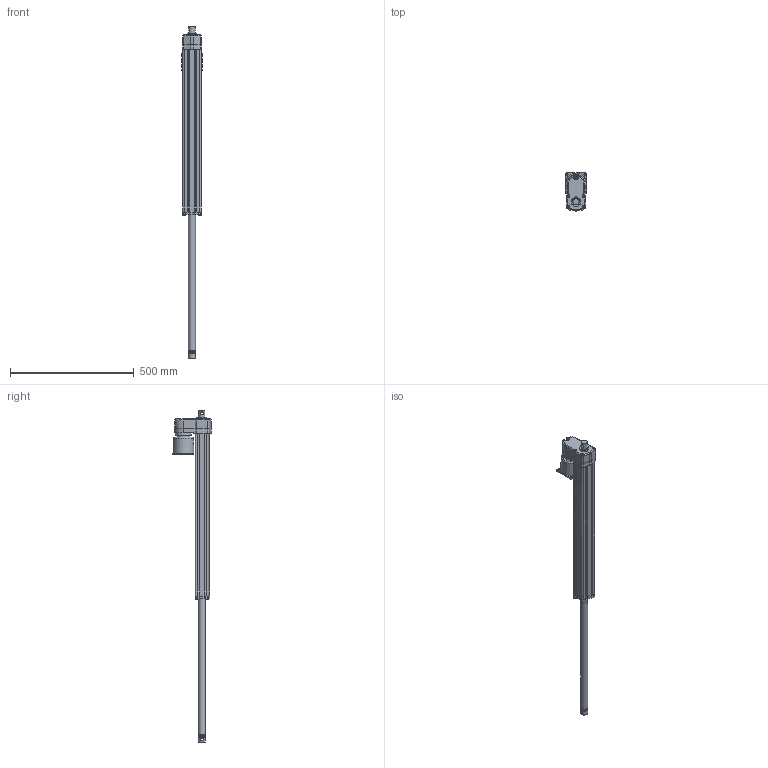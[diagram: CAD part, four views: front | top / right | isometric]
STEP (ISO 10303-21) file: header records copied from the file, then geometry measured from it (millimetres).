
FILE_DESCRIPTION (( 'STEP AP214' ), '1' );
FILE_NAME ('FA14-05A65M55M0_tollo.step', '2020-04-15T18:22:46', ( '' ), ( '' ), 'SwSTEP 2.0', 'SolidWorks 2010', '' );
FILE_SCHEMA (( 'AUTOMOTIVE_DESIGN' ));
Length unit declared in the file: millimetre
Products named in the file (9): Electrak-FA14-House-Acme-Tollo; Electrak-FA14-Rear-Tollo; Electrak-FA14-Motor-Tollo; Electrak-FA14-Tube-Acme-Tollo; Electrak-FA14-Plate-Tollo; Screw-MRT-TT-M5; Screw-M6S-M5; Electrak-FA14-Rod-Acme-Tollo; FA14-05A65M55M0_tollo
Assembly tree (15 placements, depth 3):
  FA14-05A65M55M0_tollo
    Electrak-FA14-Rod-Acme-Tollo
    Electrak-FA14-House-Acme-Tollo
      Screw-M6S-M5  x8
      Electrak-FA14-Tube-Acme-Tollo
      Electrak-FA14-Plate-Tollo
      Screw-MRT-TT-M5
      Electrak-FA14-Motor-Tollo
      Electrak-FA14-Rear-Tollo
Bounding box: 85 x 154.18 x 1341.1 mm (x, y, z)
Volume: 1816573.2 mm3; surface area: 596419.8 mm2
Topology: 14 solids, 14 shells, 509 faces, 1279 edges, 826 vertices
Faces by surface type: plane 234, cylinder 198, cone 57, torus 18, bspline 2
Full cylindrical faces by diameter (mm): 4.126 x8, 4.8 x6, 5 x8, 5.6 x4, 6 x1, 7 x4, 7.878 x8, 9.5 x1, 11.741 x1, 12.2 x2, 25.4 x1, 28.5 x4, 34.5 x1, 47.625 x1, 50 x1, 65 x1, 80 x1
Entity records: 11671 total; most frequent: CARTESIAN_POINT 2704, DIRECTION 1857, ORIENTED_EDGE 1700, EDGE_CURVE 850, AXIS2_PLACEMENT_3D 686, VERTEX_POINT 577, LINE 485, VECTOR 485
